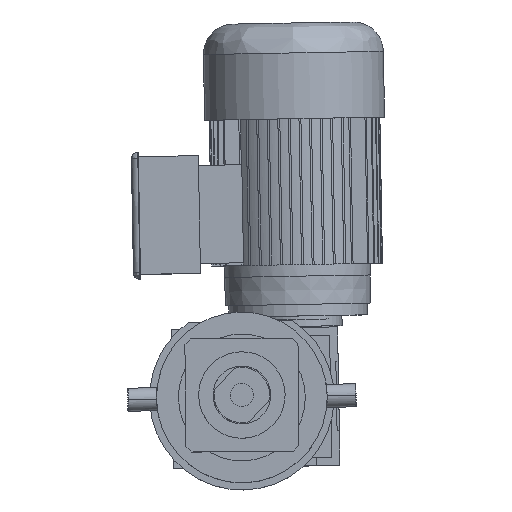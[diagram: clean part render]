
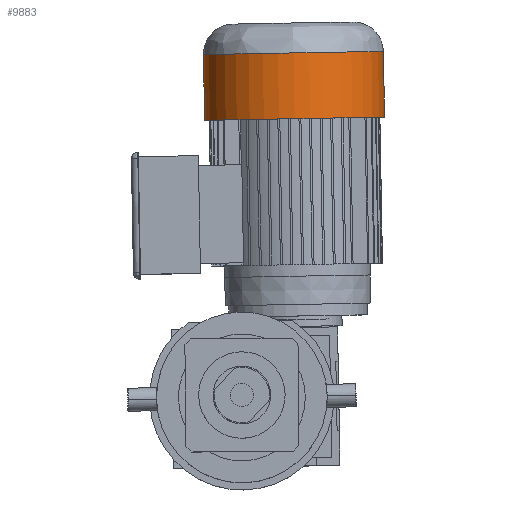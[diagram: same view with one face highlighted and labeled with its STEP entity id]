
A CAD part, top view. The second image highlights one B-rep face of the part: STEP entity #9883.
In plain terms, the highlighted cylindrical face has radius 78 mm (diameter 156 mm), a partial arc.
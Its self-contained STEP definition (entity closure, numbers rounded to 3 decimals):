
#503 = CARTESIAN_POINT ( 'NONE',  ( 0., 0., -183.5 ) ) ;
#2033 = CARTESIAN_POINT ( 'NONE',  ( 0., 78., -209.5 ) ) ;
#2124 = AXIS2_PLACEMENT_3D ( 'NONE', #6852, #32694, #4073 ) ;
#3386 = DIRECTION ( 'NONE',  ( 0., 1., 0. ) ) ;
#4073 = DIRECTION ( 'NONE',  ( 0., 1., 0. ) ) ;
#4138 = LINE ( 'NONE', #2033, #19577 ) ;
#5189 = CIRCLE ( 'NONE', #34660, 78. ) ;
#5400 = EDGE_CURVE ( 'NONE', #6198, #34753, #5189, .T. ) ;
#6198 = VERTEX_POINT ( 'NONE', #34888 ) ;
#6852 = CARTESIAN_POINT ( 'NONE',  ( 0., 0., -209.5 ) ) ;
#8341 = CARTESIAN_POINT ( 'NONE',  ( 0., 0., -126.5 ) ) ;
#9240 = ORIENTED_EDGE ( 'NONE', *, *, #20463, .T. ) ;
#9401 = EDGE_LOOP ( 'NONE', ( #18631, #9240, #31066, #22414 ) ) ;
#9883 = ADVANCED_FACE ( 'NONE', ( #25764 ), #22191, .T. ) ;
#11179 = EDGE_CURVE ( 'NONE', #34926, #19110, #25987, .T. ) ;
#11258 = DIRECTION ( 'NONE',  ( 0., 1., 0. ) ) ;
#12482 = VECTOR ( 'NONE', #31975, 1000. ) ;
#14754 = CARTESIAN_POINT ( 'NONE',  ( 0., -78., -209.5 ) ) ;
#15064 = AXIS2_PLACEMENT_3D ( 'NONE', #8341, #28527, #11258 ) ;
#18631 = ORIENTED_EDGE ( 'NONE', *, *, #11179, .T. ) ;
#19110 = VERTEX_POINT ( 'NONE', #31197 ) ;
#19276 = DIRECTION ( 'NONE',  ( 0., 0., -1. ) ) ;
#19577 = VECTOR ( 'NONE', #19276, 1000. ) ;
#20463 = EDGE_CURVE ( 'NONE', #19110, #6198, #23819, .T. ) ;
#20769 = DIRECTION ( 'NONE',  ( 0., 0., 1. ) ) ;
#21446 = EDGE_CURVE ( 'NONE', #34926, #34753, #4138, .T. ) ;
#22191 = CYLINDRICAL_SURFACE ( 'NONE', #2124, 78. ) ;
#22414 = ORIENTED_EDGE ( 'NONE', *, *, #21446, .F. ) ;
#23819 = LINE ( 'NONE', #14754, #12482 ) ;
#25764 = FACE_OUTER_BOUND ( 'NONE', #9401, .T. ) ;
#25987 = CIRCLE ( 'NONE', #15064, 78. ) ;
#28527 = DIRECTION ( 'NONE',  ( 0., 0., -1. ) ) ;
#30316 = CARTESIAN_POINT ( 'NONE',  ( 0., 78., -126.5 ) ) ;
#31066 = ORIENTED_EDGE ( 'NONE', *, *, #5400, .T. ) ;
#31197 = CARTESIAN_POINT ( 'NONE',  ( 0., -78., -126.5 ) ) ;
#31975 = DIRECTION ( 'NONE',  ( 0., 0., -1. ) ) ;
#32694 = DIRECTION ( 'NONE',  ( 0., 0., -1. ) ) ;
#34660 = AXIS2_PLACEMENT_3D ( 'NONE', #503, #20769, #3386 ) ;
#34753 = VERTEX_POINT ( 'NONE', #35355 ) ;
#34888 = CARTESIAN_POINT ( 'NONE',  ( 0., -78., -183.5 ) ) ;
#34926 = VERTEX_POINT ( 'NONE', #30316 ) ;
#35355 = CARTESIAN_POINT ( 'NONE',  ( 0., 78., -183.5 ) ) ;
